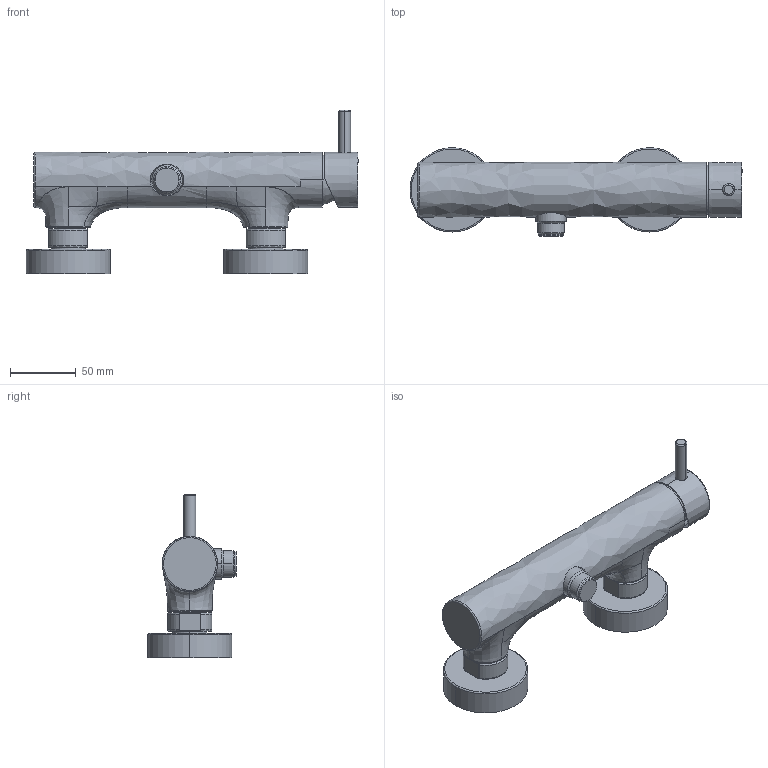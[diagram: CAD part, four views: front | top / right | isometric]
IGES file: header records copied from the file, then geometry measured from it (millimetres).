
Start section:  PTC IGES file: 12006.igs
Global section: file name: 12006.igs; native system: Creo Parametric by PTC Inc.; preprocessor: 2018100; author: carloff; organization: Unknown; date: 20210224.104446; units: millimetre
Bounding box: 252 x 67.3 x 124.1 mm (x, y, z)
Surface area: 97530 mm2 (no closed solid volume)
Topology: 0 solids, 0 shells, 516 faces, 2380 edges, 2375 vertices
Faces by surface type: revolution 259, bspline 257
